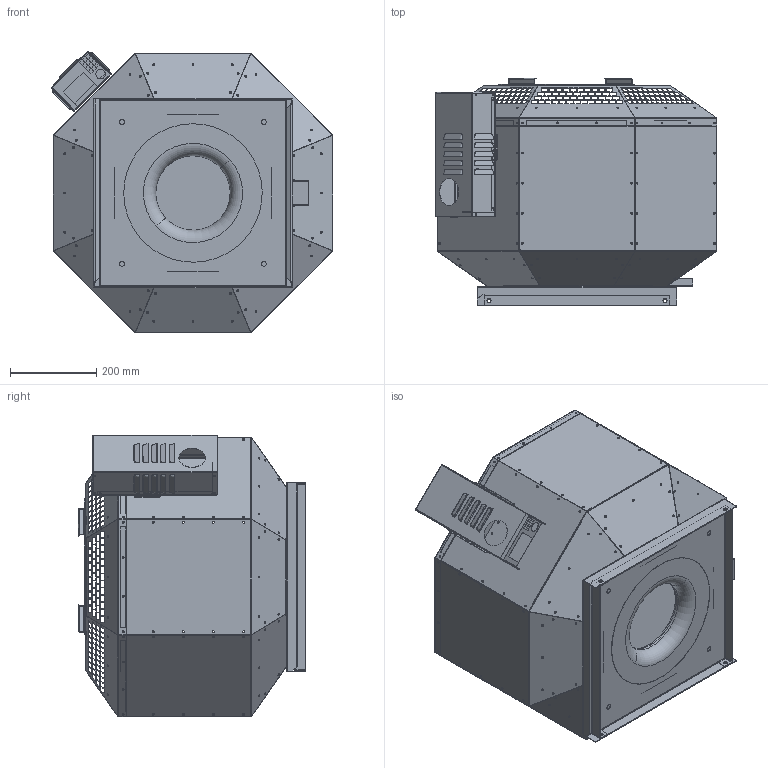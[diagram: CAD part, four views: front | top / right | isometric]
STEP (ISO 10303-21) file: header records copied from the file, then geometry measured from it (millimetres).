
FILE_DESCRIPTION (( 'STEP AP203' ), '1' );
FILE_NAME ('144617-00_DVNI280D2F430_step.step', '2018-07-31T12:38:08', ( '' ), ( '' ), 'SwSTEP 2.0', 'SolidWorks 2017', '' );
FILE_SCHEMA (( 'CONFIG_CONTROL_DESIGN' ));
Products named in the file (2): 144617-00_DVNI280D2F430_step
Bounding box: 655.6 x 528.51 x 655.6 mm (x, y, z)
Surface area: 3470373.6 mm2 (no closed solid volume)
Topology: 0 solids, 37 shells, 2641 faces, 10450 edges, 7340 vertices
Faces by surface type: plane 2134, cylinder 431, bspline 72, torus 4
Entity records: 127532 total; most frequent: CARTESIAN_POINT 38507, ORIENTED_EDGE 17114, DIRECTION 16665, EDGE_CURVE 10450, VECTOR 8491, LINE 8491, VERTEX_POINT 7340, EDGE_LOOP 4486
